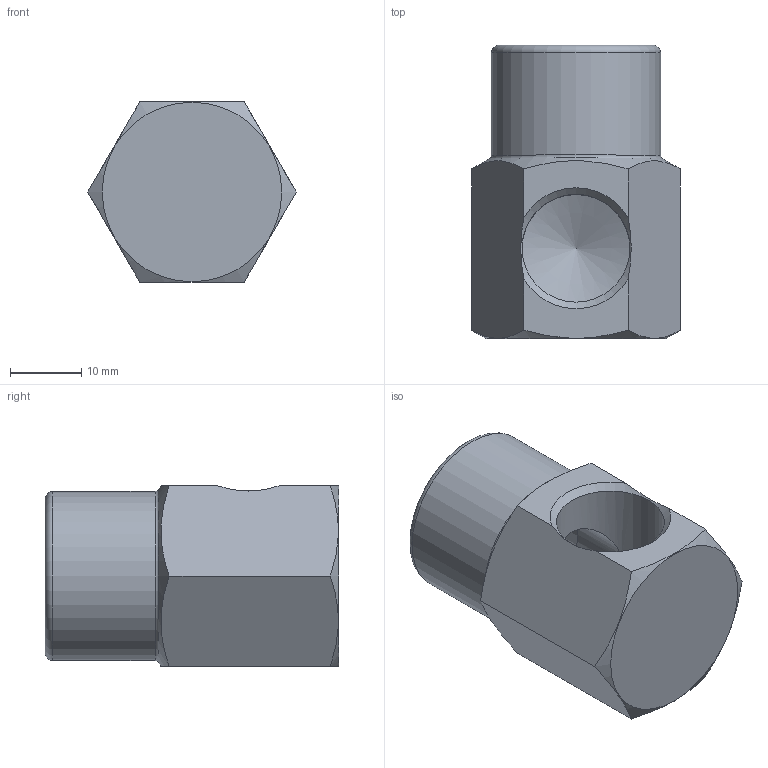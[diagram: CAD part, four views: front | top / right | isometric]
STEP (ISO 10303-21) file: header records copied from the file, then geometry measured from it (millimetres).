
FILE_DESCRIPTION(/* description */ (''),/* implementation_level */ '2;1');
FILE_NAME(/* name */ 'C:/Users/drich/Desktop/CAD FILES/SINCE 1-10-20/Rear Load Cascades/Quick Coupler Type/Head Only/38S v1.step',/* time_stamp */ '2020-01-13T19:28:38-06:00',/* author */ (''),/* organization */ (''),/* preprocessor_version */ 'ST-DEVELOPER v18',/* originating_system */ 'Autodesk Translation Framework v8.12.0.6',/* authorisation */ '');
FILE_SCHEMA (('AUTOMOTIVE_DESIGN { 1 0 10303 214 3 1 1 }'));
Length unit declared in the file: inch
Products named in the file (1): 38S
Bounding box: 29.33 x 41.27 x 25.4 mm (x, y, z)
Volume: 13908.2 mm3; surface area: 6016.8 mm2
Topology: 1 solids, 1 shells, 21 faces, 57 edges, 36 vertices
Faces by surface type: plane 9, cone 6, cylinder 4, torus 2
Full cylindrical faces by diameter (mm): 12.7 x1, 15.173 x2, 23.8 x1
Entity records: 719 total; most frequent: CARTESIAN_POINT 189, ORIENTED_EDGE 112, DIRECTION 102, EDGE_CURVE 56, AXIS2_PLACEMENT_3D 42, VERTEX_POINT 36, EDGE_LOOP 22, FACE_OUTER_BOUND 21
